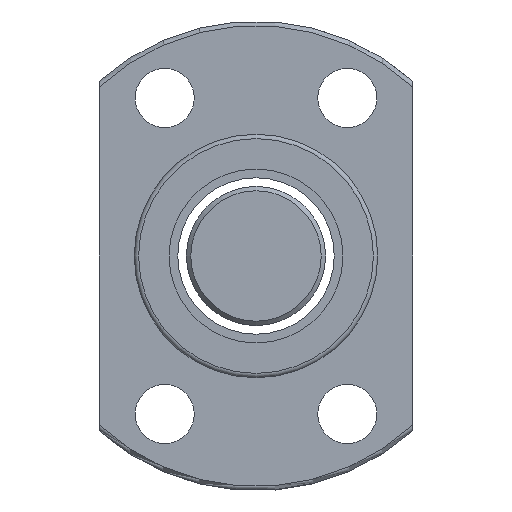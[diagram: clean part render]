
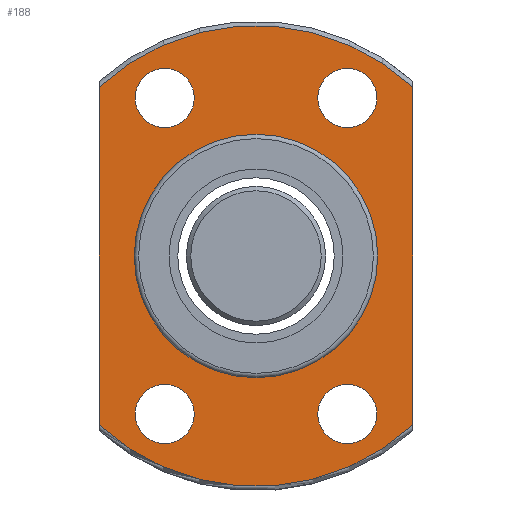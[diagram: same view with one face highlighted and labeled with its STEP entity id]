
A CAD part, left-side view. The second image highlights one B-rep face of the part: STEP entity #188.
In plain terms, the highlighted planar face has unit normal (-1, 0, 0).
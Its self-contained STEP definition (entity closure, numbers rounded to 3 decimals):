
#101=LINE('',#874,#109);
#102=LINE('',#875,#110);
#109=VECTOR('',#605,1.);
#110=VECTOR('',#606,1.);
#150=FACE_BOUND('',#250,.T.);
#151=FACE_BOUND('',#251,.T.);
#152=FACE_BOUND('',#252,.T.);
#153=FACE_BOUND('',#253,.T.);
#154=FACE_BOUND('',#254,.T.);
#188=ADVANCED_FACE('',(#223,#150,#151,#152,#153,#154),#206,.T.);
#206=PLANE('',#517);
#223=FACE_OUTER_BOUND('',#249,.T.);
#249=EDGE_LOOP('',(#322,#323,#324,#325));
#250=EDGE_LOOP('',(#326));
#251=EDGE_LOOP('',(#327));
#252=EDGE_LOOP('',(#328));
#253=EDGE_LOOP('',(#329));
#254=EDGE_LOOP('',(#330));
#322=ORIENTED_EDGE('',*,*,#439,.F.);
#323=ORIENTED_EDGE('',*,*,#420,.T.);
#324=ORIENTED_EDGE('',*,*,#440,.T.);
#325=ORIENTED_EDGE('',*,*,#437,.T.);
#326=ORIENTED_EDGE('',*,*,#441,.F.);
#327=ORIENTED_EDGE('',*,*,#442,.F.);
#328=ORIENTED_EDGE('',*,*,#443,.F.);
#329=ORIENTED_EDGE('',*,*,#444,.F.);
#330=ORIENTED_EDGE('',*,*,#445,.F.);
#383=VERTEX_POINT('',#724);
#384=VERTEX_POINT('',#725);
#394=VERTEX_POINT('',#851);
#395=VERTEX_POINT('',#853);
#396=VERTEX_POINT('',#877);
#397=VERTEX_POINT('',#879);
#398=VERTEX_POINT('',#881);
#399=VERTEX_POINT('',#883);
#400=VERTEX_POINT('',#885);
#420=EDGE_CURVE('',#383,#384,#461,.T.);
#437=EDGE_CURVE('',#395,#394,#469,.T.);
#439=EDGE_CURVE('',#383,#394,#101,.T.);
#440=EDGE_CURVE('',#384,#395,#102,.T.);
#441=EDGE_CURVE('',#396,#396,#470,.T.);
#442=EDGE_CURVE('',#397,#397,#471,.T.);
#443=EDGE_CURVE('',#398,#398,#472,.T.);
#444=EDGE_CURVE('',#399,#399,#473,.T.);
#445=EDGE_CURVE('',#400,#400,#474,.T.);
#461=CIRCLE('',#498,13.25);
#469=CIRCLE('',#510,13.25);
#470=CIRCLE('',#512,7.);
#471=CIRCLE('',#513,1.7);
#472=CIRCLE('',#514,1.7);
#473=CIRCLE('',#515,1.7);
#474=CIRCLE('',#516,1.7);
#498=AXIS2_PLACEMENT_3D('',#723,#573,#574);
#510=AXIS2_PLACEMENT_3D('',#852,#601,#602);
#512=AXIS2_PLACEMENT_3D('',#876,#607,#608);
#513=AXIS2_PLACEMENT_3D('',#878,#609,#610);
#514=AXIS2_PLACEMENT_3D('',#880,#611,#612);
#515=AXIS2_PLACEMENT_3D('',#882,#613,#614);
#516=AXIS2_PLACEMENT_3D('',#884,#615,#616);
#517=AXIS2_PLACEMENT_3D('',#886,#617,#618);
#573=DIRECTION('',(-1.,0.,0.));
#574=DIRECTION('',(0.,-1.,0.));
#601=DIRECTION('',(-1.,0.,0.));
#602=DIRECTION('',(0.,-1.,0.));
#605=DIRECTION('',(0.,0.,1.));
#606=DIRECTION('',(0.,0.,1.));
#607=DIRECTION('',(-1.,0.,0.));
#608=DIRECTION('',(0.,-1.,0.));
#609=DIRECTION('',(-1.,0.,0.));
#610=DIRECTION('',(0.,-1.,0.));
#611=DIRECTION('',(-1.,0.,0.));
#612=DIRECTION('',(0.,-1.,0.));
#613=DIRECTION('',(-1.,0.,0.));
#614=DIRECTION('',(0.,-1.,0.));
#615=DIRECTION('',(-1.,0.,0.));
#616=DIRECTION('',(0.,-1.,0.));
#617=DIRECTION('',(-1.,0.,0.));
#618=DIRECTION('',(0.,-1.,0.));
#723=CARTESIAN_POINT('',(-12.,0.,0.));
#724=CARTESIAN_POINT('',(-12.,9.,-9.724));
#725=CARTESIAN_POINT('',(-12.,-9.,-9.724));
#851=CARTESIAN_POINT('',(-12.,9.,9.724));
#852=CARTESIAN_POINT('',(-12.,0.,0.));
#853=CARTESIAN_POINT('',(-12.,-9.,9.724));
#874=CARTESIAN_POINT('',(-12.,9.,0.));
#875=CARTESIAN_POINT('',(-12.,-9.,0.));
#876=CARTESIAN_POINT('',(-12.,0.,0.));
#877=CARTESIAN_POINT('',(-12.,-7.,0.));
#878=CARTESIAN_POINT('',(-12.,5.25,9.09));
#879=CARTESIAN_POINT('',(-12.,3.55,9.09));
#880=CARTESIAN_POINT('',(-12.,-5.25,9.09));
#881=CARTESIAN_POINT('',(-12.,-6.95,9.09));
#882=CARTESIAN_POINT('',(-12.,-5.25,-9.09));
#883=CARTESIAN_POINT('',(-12.,-6.95,-9.09));
#884=CARTESIAN_POINT('',(-12.,5.25,-9.09));
#885=CARTESIAN_POINT('',(-12.,3.55,-9.09));
#886=CARTESIAN_POINT('',(-12.,10.125,0.));
